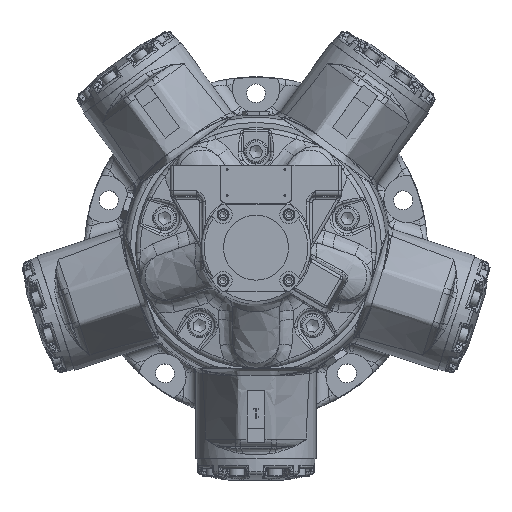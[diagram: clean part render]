
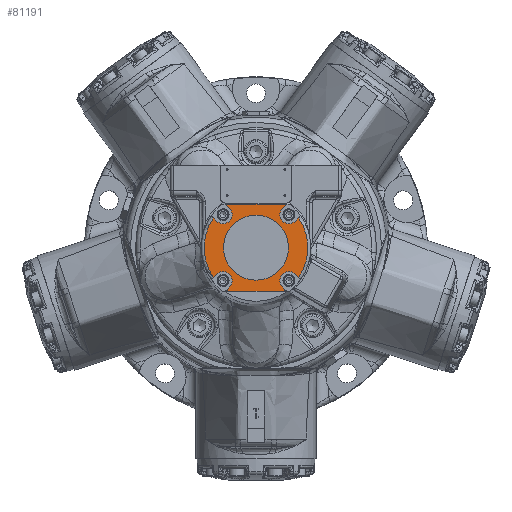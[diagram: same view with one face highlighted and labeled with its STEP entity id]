
A CAD part, top view. The second image highlights one B-rep face of the part: STEP entity #81191.
In plain terms, the highlighted planar face has unit normal (0, 0, 1).
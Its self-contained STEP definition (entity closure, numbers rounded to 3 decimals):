
#3124=FACE_BOUND('',#21787,.T.);
#3385=LINE('',#111550,#7142);
#3386=LINE('',#111552,#7143);
#3387=LINE('',#111556,#7144);
#3388=LINE('',#111560,#7145);
#3389=LINE('',#111564,#7146);
#3390=LINE('',#111568,#7147);
#3391=LINE('',#111572,#7148);
#3392=LINE('',#111576,#7149);
#3393=LINE('',#111580,#7150);
#3394=LINE('',#111584,#7151);
#7142=VECTOR('',#93544,10.);
#7143=VECTOR('',#93545,10.);
#7144=VECTOR('',#93548,10.);
#7145=VECTOR('',#93551,10.);
#7146=VECTOR('',#93554,10.);
#7147=VECTOR('',#93557,10.);
#7148=VECTOR('',#93560,10.);
#7149=VECTOR('',#93563,10.);
#7150=VECTOR('',#93566,10.);
#7151=VECTOR('',#93569,10.);
#16594=FACE_OUTER_BOUND('',#21786,.T.);
#21786=EDGE_LOOP('',(#50254,#50255,#50256,#50257,#50258,#50259,#50260,#50261,
#50262,#50263,#50264,#50265,#50266,#50267,#50268,#50269,#50270,#50271,#50272,
#50273));
#21787=EDGE_LOOP('',(#50274));
#27235=CIRCLE('',#86406,54.769);
#27237=CIRCLE('',#86410,34.29);
#27240=CIRCLE('',#86415,9.525);
#27241=CIRCLE('',#86416,54.769);
#27242=CIRCLE('',#86417,54.769);
#27243=CIRCLE('',#86418,9.525);
#27244=CIRCLE('',#86419,54.769);
#27245=CIRCLE('',#86420,9.525);
#27246=CIRCLE('',#86421,54.769);
#27247=CIRCLE('',#86422,54.769);
#27248=CIRCLE('',#86423,9.525);
#30761=VERTEX_POINT('',#111500);
#30764=VERTEX_POINT('',#111514);
#30766=VERTEX_POINT('',#111530);
#30771=VERTEX_POINT('',#111549);
#30772=VERTEX_POINT('',#111551);
#30773=VERTEX_POINT('',#111553);
#30774=VERTEX_POINT('',#111555);
#30775=VERTEX_POINT('',#111557);
#30776=VERTEX_POINT('',#111559);
#30777=VERTEX_POINT('',#111561);
#30778=VERTEX_POINT('',#111563);
#30779=VERTEX_POINT('',#111565);
#30780=VERTEX_POINT('',#111567);
#30781=VERTEX_POINT('',#111569);
#30782=VERTEX_POINT('',#111571);
#30783=VERTEX_POINT('',#111573);
#30784=VERTEX_POINT('',#111575);
#30785=VERTEX_POINT('',#111577);
#30786=VERTEX_POINT('',#111579);
#30787=VERTEX_POINT('',#111581);
#30788=VERTEX_POINT('',#111583);
#38029=EDGE_CURVE('',#30764,#30761,#27235,.T.);
#38031=EDGE_CURVE('',#30766,#30766,#27237,.T.);
#38037=EDGE_CURVE('',#30771,#30761,#3385,.T.);
#38038=EDGE_CURVE('',#30764,#30772,#3386,.T.);
#38039=EDGE_CURVE('',#30772,#30773,#27240,.T.);
#38040=EDGE_CURVE('',#30773,#30774,#3387,.T.);
#38041=EDGE_CURVE('',#30775,#30774,#27241,.T.);
#38042=EDGE_CURVE('',#30775,#30776,#3388,.T.);
#38043=EDGE_CURVE('',#30777,#30776,#27242,.T.);
#38044=EDGE_CURVE('',#30777,#30778,#3389,.T.);
#38045=EDGE_CURVE('',#30778,#30779,#27243,.T.);
#38046=EDGE_CURVE('',#30779,#30780,#3390,.T.);
#38047=EDGE_CURVE('',#30781,#30780,#27244,.T.);
#38048=EDGE_CURVE('',#30781,#30782,#3391,.T.);
#38049=EDGE_CURVE('',#30782,#30783,#27245,.T.);
#38050=EDGE_CURVE('',#30783,#30784,#3392,.T.);
#38051=EDGE_CURVE('',#30785,#30784,#27246,.T.);
#38052=EDGE_CURVE('',#30785,#30786,#3393,.T.);
#38053=EDGE_CURVE('',#30787,#30786,#27247,.T.);
#38054=EDGE_CURVE('',#30787,#30788,#3394,.T.);
#38055=EDGE_CURVE('',#30788,#30771,#27248,.T.);
#50254=ORIENTED_EDGE('',*,*,#38037,.T.);
#50255=ORIENTED_EDGE('',*,*,#38029,.F.);
#50256=ORIENTED_EDGE('',*,*,#38038,.T.);
#50257=ORIENTED_EDGE('',*,*,#38039,.T.);
#50258=ORIENTED_EDGE('',*,*,#38040,.T.);
#50259=ORIENTED_EDGE('',*,*,#38041,.F.);
#50260=ORIENTED_EDGE('',*,*,#38042,.T.);
#50261=ORIENTED_EDGE('',*,*,#38043,.F.);
#50262=ORIENTED_EDGE('',*,*,#38044,.T.);
#50263=ORIENTED_EDGE('',*,*,#38045,.T.);
#50264=ORIENTED_EDGE('',*,*,#38046,.T.);
#50265=ORIENTED_EDGE('',*,*,#38047,.F.);
#50266=ORIENTED_EDGE('',*,*,#38048,.T.);
#50267=ORIENTED_EDGE('',*,*,#38049,.T.);
#50268=ORIENTED_EDGE('',*,*,#38050,.T.);
#50269=ORIENTED_EDGE('',*,*,#38051,.F.);
#50270=ORIENTED_EDGE('',*,*,#38052,.T.);
#50271=ORIENTED_EDGE('',*,*,#38053,.F.);
#50272=ORIENTED_EDGE('',*,*,#38054,.T.);
#50273=ORIENTED_EDGE('',*,*,#38055,.T.);
#50274=ORIENTED_EDGE('',*,*,#38031,.T.);
#74672=PLANE('',#86414);
#81191=ADVANCED_FACE('',(#16594,#3124),#74672,.T.);
#86406=AXIS2_PLACEMENT_3D('',#111525,#93525,#93526);
#86410=AXIS2_PLACEMENT_3D('',#111531,#93533,#93534);
#86414=AXIS2_PLACEMENT_3D('',#111548,#93542,#93543);
#86415=AXIS2_PLACEMENT_3D('',#111554,#93546,#93547);
#86416=AXIS2_PLACEMENT_3D('',#111558,#93549,#93550);
#86417=AXIS2_PLACEMENT_3D('',#111562,#93552,#93553);
#86418=AXIS2_PLACEMENT_3D('',#111566,#93555,#93556);
#86419=AXIS2_PLACEMENT_3D('',#111570,#93558,#93559);
#86420=AXIS2_PLACEMENT_3D('',#111574,#93561,#93562);
#86421=AXIS2_PLACEMENT_3D('',#111578,#93564,#93565);
#86422=AXIS2_PLACEMENT_3D('',#111582,#93567,#93568);
#86423=AXIS2_PLACEMENT_3D('',#111585,#93570,#93571);
#93525=DIRECTION('center_axis',(0.,0.,
-1.));
#93526=DIRECTION('ref_axis',(1.,0.,0.));
#93533=DIRECTION('center_axis',(0.,0.,
-1.));
#93534=DIRECTION('ref_axis',(-1.,0.,0.));
#93542=DIRECTION('center_axis',(0.,0.,
1.));
#93543=DIRECTION('ref_axis',(1.,0.,0.));
#93544=DIRECTION('',(0.707,-0.707,0.));
#93545=DIRECTION('',(-0.707,-0.707,0.));
#93546=DIRECTION('center_axis',(0.,0.,
-1.));
#93547=DIRECTION('ref_axis',(-0.707,0.707,0.));
#93548=DIRECTION('',(0.707,0.707,0.));
#93549=DIRECTION('center_axis',(0.,0.,
-1.));
#93550=DIRECTION('ref_axis',(1.,0.,0.));
#93551=DIRECTION('',(-1.,0.,0.));
#93552=DIRECTION('center_axis',(0.,0.,
-1.));
#93553=DIRECTION('ref_axis',(1.,0.,0.));
#93554=DIRECTION('',(0.707,-0.707,0.));
#93555=DIRECTION('center_axis',(0.,0.,
-1.));
#93556=DIRECTION('ref_axis',(-0.707,-0.707,0.));
#93557=DIRECTION('',(-0.707,0.707,0.));
#93558=DIRECTION('center_axis',(0.,0.,
-1.));
#93559=DIRECTION('ref_axis',(1.,0.,0.));
#93560=DIRECTION('',(0.707,0.707,0.));
#93561=DIRECTION('center_axis',(0.,0.,
-1.));
#93562=DIRECTION('ref_axis',(0.707,-0.707,0.));
#93563=DIRECTION('',(-0.707,-0.707,0.));
#93564=DIRECTION('center_axis',(0.,0.,
-1.));
#93565=DIRECTION('ref_axis',(1.,0.,0.));
#93566=DIRECTION('',(1.,0.,0.));
#93567=DIRECTION('center_axis',(0.,0.,
-1.));
#93568=DIRECTION('ref_axis',(1.,0.,0.));
#93569=DIRECTION('',(-0.707,0.707,0.));
#93570=DIRECTION('center_axis',(0.,0.,
-1.));
#93571=DIRECTION('ref_axis',(0.707,0.707,0.));
#111500=CARTESIAN_POINT('',(44.872,-31.402,350.936));
#111514=CARTESIAN_POINT('',(44.872,31.402,350.936));
#111525=CARTESIAN_POINT('Origin',(0.,0.,
350.936));
#111530=CARTESIAN_POINT('',(34.29,0.,350.936));
#111531=CARTESIAN_POINT('Origin',(0.,0.,
350.936));
#111548=CARTESIAN_POINT('Origin',(0.,0.,
350.936));
#111549=CARTESIAN_POINT('',(41.534,-28.063,350.936));
#111550=CARTESIAN_POINT('',(35.012,-21.542,350.936));
#111551=CARTESIAN_POINT('',(41.534,28.063,350.936));
#111552=CARTESIAN_POINT('',(24.134,10.664,350.936));
#111553=CARTESIAN_POINT('',(28.063,41.534,350.936));
#111554=CARTESIAN_POINT('Origin',(34.798,34.798,350.936));
#111555=CARTESIAN_POINT('',(31.402,44.872,350.936));
#111556=CARTESIAN_POINT('',(21.542,35.012,350.936));
#111557=CARTESIAN_POINT('',(29.668,46.037,350.936));
#111558=CARTESIAN_POINT('Origin',(0.,0.,
350.936));
#111559=CARTESIAN_POINT('',(-29.668,46.038,350.936));
#111560=CARTESIAN_POINT('',(-25.249,46.038,350.936));
#111561=CARTESIAN_POINT('',(-31.402,44.872,350.936));
#111562=CARTESIAN_POINT('Origin',(0.,0.,
350.936));
#111563=CARTESIAN_POINT('',(-28.063,41.534,350.936));
#111564=CARTESIAN_POINT('',(-10.664,24.134,350.936));
#111565=CARTESIAN_POINT('',(-41.534,28.063,350.936));
#111566=CARTESIAN_POINT('Origin',(-34.798,34.798,350.936));
#111567=CARTESIAN_POINT('',(-44.872,31.402,350.936));
#111568=CARTESIAN_POINT('',(-35.012,21.542,350.936));
#111569=CARTESIAN_POINT('',(-44.872,-31.402,350.936));
#111570=CARTESIAN_POINT('Origin',(0.,0.,
350.936));
#111571=CARTESIAN_POINT('',(-41.534,-28.063,350.936));
#111572=CARTESIAN_POINT('',(-24.134,-10.664,350.936));
#111573=CARTESIAN_POINT('',(-28.063,-41.534,350.936));
#111574=CARTESIAN_POINT('Origin',(-34.798,-34.798,350.936));
#111575=CARTESIAN_POINT('',(-31.402,-44.872,350.936));
#111576=CARTESIAN_POINT('',(-21.542,-35.012,350.936));
#111577=CARTESIAN_POINT('',(-29.668,-46.037,350.936));
#111578=CARTESIAN_POINT('Origin',(0.,0.,
350.936));
#111579=CARTESIAN_POINT('',(29.668,-46.038,350.936));
#111580=CARTESIAN_POINT('',(31.991,-46.038,350.936));
#111581=CARTESIAN_POINT('',(31.402,-44.872,350.936));
#111582=CARTESIAN_POINT('Origin',(0.,0.,
350.936));
#111583=CARTESIAN_POINT('',(28.063,-41.534,350.936));
#111584=CARTESIAN_POINT('',(10.664,-24.134,350.936));
#111585=CARTESIAN_POINT('Origin',(34.798,-34.798,350.936));
